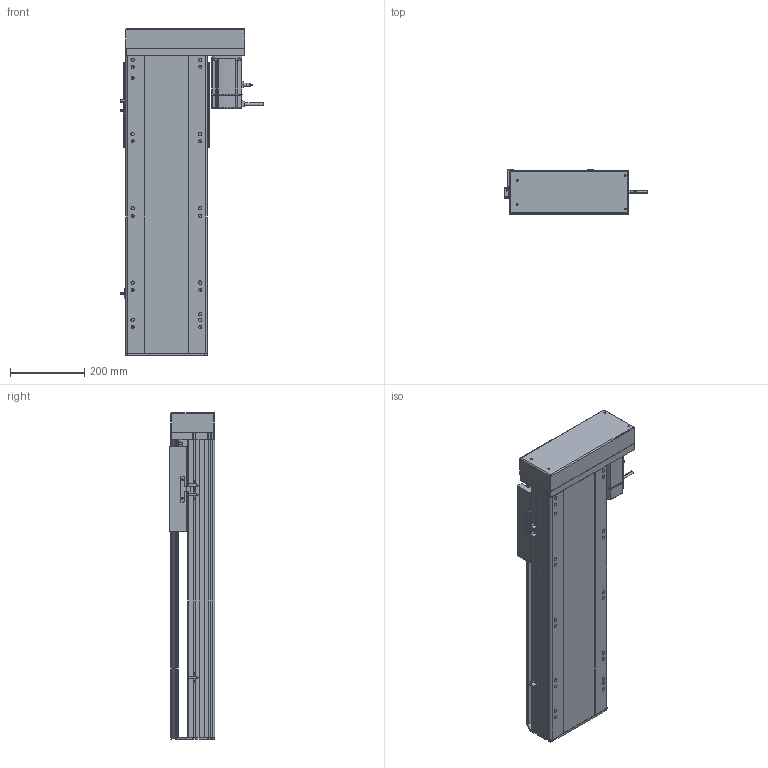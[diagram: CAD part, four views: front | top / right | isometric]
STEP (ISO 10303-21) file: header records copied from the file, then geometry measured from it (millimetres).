
FILE_DESCRIPTION (( 'STEP AP214' ), '1' );
FILE_NAME ('RTH22-XX-500-L-M75-C4.STEP', '2025-10-24T10:57:17', ( 'Microsoft' ), ( 'Microsoft' ), 'SwSTEP 2.0', 'SolidWorks 2018', '' );
FILE_SCHEMA (( 'AUTOMOTIVE_DESIGN' ));
Length unit declared in the file: millimetre
Products named in the file (10): N_RTH22-L-011菁釱^RTH22-XX-XX-L-M75-C4; N_RTH22-GY-001耜裔^RTH22-XX-XX-L-M75-C4; N_RTH22-L-008-P75萇儂啣^RTH22-XX-XX-L-M75-C4; RTH22-XX-500-L-M75-C4; N_750W萇儂^RTH22-XX-XX-L-M75-C4; N_RTH22-L-004-SFS25賑釱^RTH22-XX-XX-L-M75-C4; N_RTH22-GY-013外置感应片^RTH22-XX-XX-L-M75-C4; N_OMRON EE-SX672 传感器^RTH22-XX-XX-L-M75-C4; N_RTH22-L-007奻裔^RTH22-XX-XX-L-M75-C4; N_RTH22-L-018裔赽^RTH22-XX-XX-L-M75-C4
Assembly tree (11 placements, depth 2):
  RTH22-XX-500-L-M75-C4
    N_RTH22-L-011菁釱^RTH22-XX-XX-L-M75-C4
    N_RTH22-GY-001耜裔^RTH22-XX-XX-L-M75-C4
    N_750W萇儂^RTH22-XX-XX-L-M75-C4
    N_RTH22-L-008-P75萇儂啣^RTH22-XX-XX-L-M75-C4
    N_RTH22-L-007奻裔^RTH22-XX-XX-L-M75-C4
    N_RTH22-L-018裔赽^RTH22-XX-XX-L-M75-C4
    N_OMRON EE-SX672 传感器^RTH22-XX-XX-L-M75-C4  x3
    N_RTH22-GY-013外置感应片^RTH22-XX-XX-L-M75-C4
    N_RTH22-L-004-SFS25賑釱^RTH22-XX-XX-L-M75-C4
Bounding box: 384.7 x 122 x 879.7 mm (x, y, z)
Volume: 13057573.9 mm3; surface area: 1536460.6 mm2
Topology: 11 solids, 11 shells, 1570 faces, 4279 edges, 2761 vertices
Faces by surface type: plane 791, cylinder 446, bspline 279, cone 54
Entity records: 39019 total; most frequent: CARTESIAN_POINT 11966, ORIENTED_EDGE 5542, DIRECTION 5201, EDGE_CURVE 2771, VERTEX_POINT 1797, AXIS2_PLACEMENT_3D 1736, LINE 1729, VECTOR 1729
